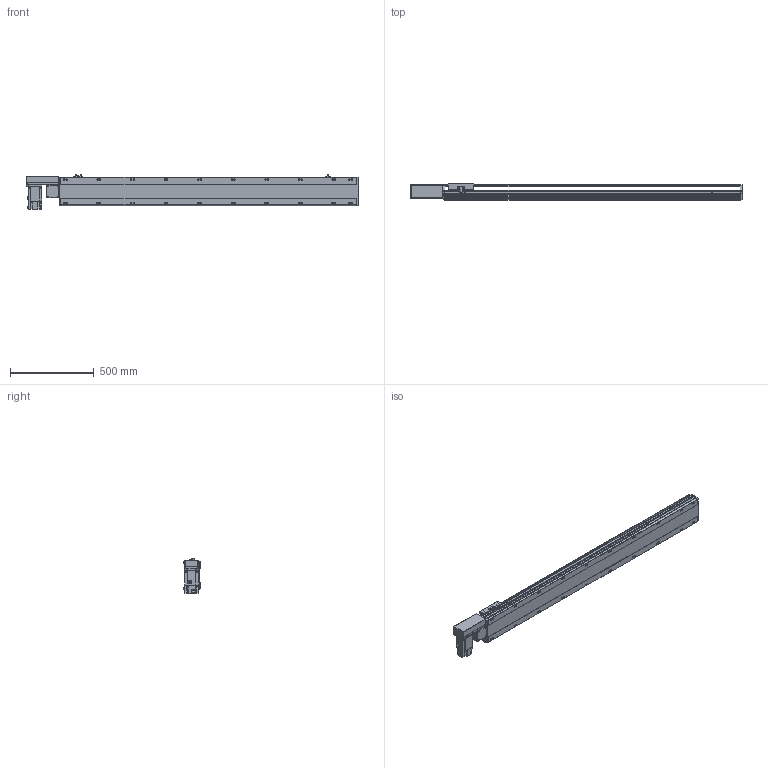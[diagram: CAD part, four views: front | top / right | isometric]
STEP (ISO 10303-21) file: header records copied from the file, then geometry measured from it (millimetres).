
FILE_DESCRIPTION(/* description */ ('STEP AP214'),/* implementation_level */ '2;1');
FILE_NAME(/* name */ 'PBS170-P40-S1500-R-T75-C1-N(0)',/* time_stamp */ '2022-06-07T09:30:44+02:00',/* author */ ('License CC BY-ND 4.0'),/* organization */ ('CADENAS'),/* preprocessor_version */ 'ST-DEVELOPER v18.102',/* originating_system */ 'PARTsolutions',/* authorisation */ ' ');
FILE_SCHEMA (('CONFIG_CONTROL_DESIGN','MODEL_BASED_INTEGRATED_MANUFACTURING_SCHEMA','AP242_MANAGED_MODEL_BASED_3D_ENGINEERING_MIM_LF { 1 0 10303 442 1 1 4 }','AUTOMOTIVE_DESIGN {1 0 10303 214 3 1 1}'));
Length unit declared in the file: millimetre
Products named in the file (7): PBS170-P40-S1500-R-T75-C1-N(0); PBS170_sensor; PBS170_plant; PBS170_sliser; T75-p1; PBS170T-R_motors; PBS170-S1500()_body
Assembly tree (8 placements, depth 2):
  PBS170-P40-S1500-R-T75-C1-N(0)
    PBS170_sensor  x3
    PBS170_plant
    PBS170_sliser
    T75-p1
    PBS170T-R_motors
    PBS170-S1500()_body
Bounding box: 1978 x 97 x 205.3 mm (x, y, z)
Volume: 14551992.7 mm3; surface area: 1870427.2 mm2
Topology: 8 solids, 8 shells, 1114 faces, 2955 edges, 1926 vertices
Faces by surface type: plane 699, cylinder 355, cone 50, sphere 8, torus 2
Full cylindrical faces by diameter (mm): 3.242 x4, 4 x2, 4.4 x4, 4.5 x6, 4.917 x4, 6 x9, 6.647 x28, 7 x2, 7.5 x4, 8 x8, 8.5 x20, 10 x4, 10.5 x20, 11 x2, 30 x2, 40 x1, 70 x1
Entity records: 32034 total; most frequent: CARTESIAN_POINT 5937, DIRECTION 5440, ORIENTED_EDGE 5148, EDGE_CURVE 2574, AXIS2_PLACEMENT_3D 1897, VERTEX_POINT 1778, LINE 1646, VECTOR 1646
